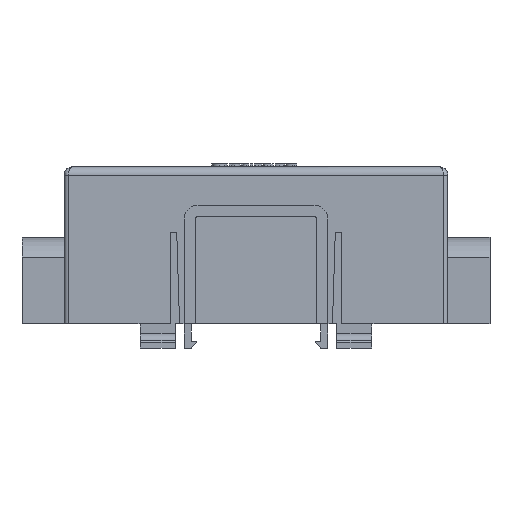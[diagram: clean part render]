
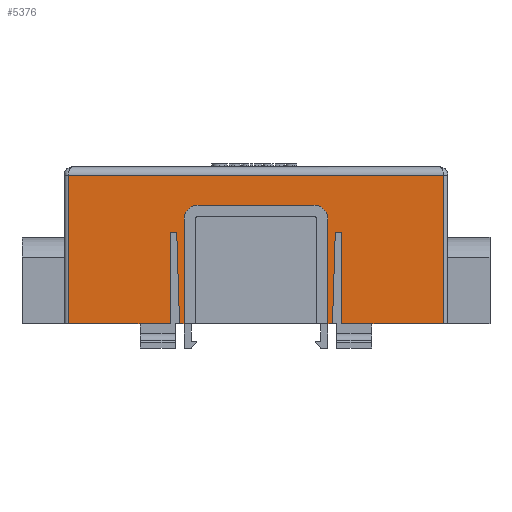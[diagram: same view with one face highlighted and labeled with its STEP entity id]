
A CAD part, front view. The second image highlights one B-rep face of the part: STEP entity #5376.
In plain terms, the highlighted planar face has unit normal (0, -1, 0).
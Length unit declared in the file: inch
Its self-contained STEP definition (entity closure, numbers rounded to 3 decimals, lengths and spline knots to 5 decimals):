
#507=FACE_OUTER_BOUND('',#805,.T.);
#805=EDGE_LOOP('',(#4608,#4609,#4610,#4611,#4612,#4613,#4614,#4615,#4616,
#4617,#4618,#4619,#4620,#4621,#4622,#4623,#4624,#4625));
#917=CIRCLE('',#5660,0.098);
#918=CIRCLE('',#5661,0.098);
#1364=LINE('',#9201,#1942);
#1370=LINE('',#9213,#1948);
#1371=LINE('',#9218,#1949);
#1375=LINE('',#9226,#1953);
#1378=LINE('',#9231,#1956);
#1393=LINE('',#9263,#1971);
#1395=LINE('',#9267,#1973);
#1396=LINE('',#9269,#1974);
#1397=LINE('',#9270,#1975);
#1398=LINE('',#9272,#1976);
#1399=LINE('',#9274,#1977);
#1400=LINE('',#9276,#1978);
#1401=LINE('',#9278,#1979);
#1402=LINE('',#9280,#1980);
#1403=LINE('',#9284,#1981);
#1404=LINE('',#9287,#1982);
#1942=VECTOR('',#6546,0.3937);
#1948=VECTOR('',#6554,0.3937);
#1949=VECTOR('',#6559,0.3937);
#1953=VECTOR('',#6565,0.3937);
#1956=VECTOR('',#6570,0.3937);
#1971=VECTOR('',#6593,0.3937);
#1973=VECTOR('',#6597,0.3937);
#1974=VECTOR('',#6598,0.3937);
#1975=VECTOR('',#6599,0.3937);
#1976=VECTOR('',#6600,0.3937);
#1977=VECTOR('',#6601,0.3937);
#1978=VECTOR('',#6602,0.3937);
#1979=VECTOR('',#6603,0.3937);
#1980=VECTOR('',#6604,0.3937);
#1981=VECTOR('',#6607,0.3937);
#1982=VECTOR('',#6610,0.3937);
#2501=VERTEX_POINT('',#9198);
#2502=VERTEX_POINT('',#9200);
#2506=VERTEX_POINT('',#9210);
#2507=VERTEX_POINT('',#9212);
#2508=VERTEX_POINT('',#9216);
#2509=VERTEX_POINT('',#9217);
#2512=VERTEX_POINT('',#9225);
#2526=VERTEX_POINT('',#9262);
#2527=VERTEX_POINT('',#9266);
#2528=VERTEX_POINT('',#9268);
#2529=VERTEX_POINT('',#9271);
#2530=VERTEX_POINT('',#9273);
#2531=VERTEX_POINT('',#9275);
#2532=VERTEX_POINT('',#9277);
#2533=VERTEX_POINT('',#9279);
#2534=VERTEX_POINT('',#9281);
#2535=VERTEX_POINT('',#9283);
#2536=VERTEX_POINT('',#9285);
#3213=EDGE_CURVE('',#2502,#2501,#1364,.T.);
#3219=EDGE_CURVE('',#2507,#2506,#1370,.T.);
#3221=EDGE_CURVE('',#2508,#2509,#1371,.T.);
#3225=EDGE_CURVE('',#2509,#2512,#1375,.T.);
#3228=EDGE_CURVE('',#2512,#2502,#1378,.T.);
#3245=EDGE_CURVE('',#2526,#2508,#1393,.T.);
#3247=EDGE_CURVE('',#2527,#2501,#1395,.T.);
#3248=EDGE_CURVE('',#2528,#2527,#1396,.T.);
#3249=EDGE_CURVE('',#2507,#2528,#1397,.T.);
#3250=EDGE_CURVE('',#2506,#2529,#1398,.T.);
#3251=EDGE_CURVE('',#2529,#2530,#1399,.T.);
#3252=EDGE_CURVE('',#2530,#2531,#1400,.T.);
#3253=EDGE_CURVE('',#2531,#2532,#1401,.T.);
#3254=EDGE_CURVE('',#2532,#2533,#1402,.T.);
#3255=EDGE_CURVE('',#2533,#2534,#917,.T.);
#3256=EDGE_CURVE('',#2534,#2535,#1403,.T.);
#3257=EDGE_CURVE('',#2535,#2536,#918,.T.);
#3258=EDGE_CURVE('',#2536,#2526,#1404,.T.);
#4608=ORIENTED_EDGE('',*,*,#3221,.T.);
#4609=ORIENTED_EDGE('',*,*,#3225,.T.);
#4610=ORIENTED_EDGE('',*,*,#3228,.T.);
#4611=ORIENTED_EDGE('',*,*,#3213,.T.);
#4612=ORIENTED_EDGE('',*,*,#3247,.F.);
#4613=ORIENTED_EDGE('',*,*,#3248,.F.);
#4614=ORIENTED_EDGE('',*,*,#3249,.F.);
#4615=ORIENTED_EDGE('',*,*,#3219,.T.);
#4616=ORIENTED_EDGE('',*,*,#3250,.T.);
#4617=ORIENTED_EDGE('',*,*,#3251,.T.);
#4618=ORIENTED_EDGE('',*,*,#3252,.T.);
#4619=ORIENTED_EDGE('',*,*,#3253,.T.);
#4620=ORIENTED_EDGE('',*,*,#3254,.T.);
#4621=ORIENTED_EDGE('',*,*,#3255,.T.);
#4622=ORIENTED_EDGE('',*,*,#3256,.T.);
#4623=ORIENTED_EDGE('',*,*,#3257,.T.);
#4624=ORIENTED_EDGE('',*,*,#3258,.T.);
#4625=ORIENTED_EDGE('',*,*,#3245,.T.);
#5114=PLANE('',#5659);
#5376=ADVANCED_FACE('',(#507),#5114,.T.);
#5659=AXIS2_PLACEMENT_3D('',#9265,#6595,#6596);
#5660=AXIS2_PLACEMENT_3D('',#9282,#6605,#6606);
#5661=AXIS2_PLACEMENT_3D('',#9286,#6608,#6609);
#6546=DIRECTION('',(1.,0.,0.));
#6554=DIRECTION('',(1.,0.,0.));
#6559=DIRECTION('',(0.03,0.,1.));
#6565=DIRECTION('',(1.,0.,0.));
#6570=DIRECTION('',(0.,0.,-1.));
#6593=DIRECTION('',(1.,0.,0.));
#6595=DIRECTION('center_axis',(0.,-1.,0.));
#6596=DIRECTION('ref_axis',(1.,0.,0.));
#6597=DIRECTION('',(0.,0.,-1.));
#6598=DIRECTION('',(1.,0.,0.));
#6599=DIRECTION('',(0.,0.,1.));
#6600=DIRECTION('',(0.,0.,1.));
#6601=DIRECTION('',(1.,0.,0.));
#6602=DIRECTION('',(0.03,0.,-1.));
#6603=DIRECTION('',(1.,0.,0.));
#6604=DIRECTION('',(0.,0.,1.));
#6605=DIRECTION('center_axis',(0.,1.,0.));
#6606=DIRECTION('ref_axis',(0.,0.,
1.));
#6607=DIRECTION('',(1.,0.,0.));
#6608=DIRECTION('center_axis',(0.,1.,0.));
#6609=DIRECTION('ref_axis',(1.,0.,0.));
#6610=DIRECTION('',(0.,0.,-1.));
#9198=CARTESIAN_POINT('',(1.315,-0.032,0.));
#9200=CARTESIAN_POINT('',(0.60071,-0.032,0.));
#9201=CARTESIAN_POINT('',(-1.345,-0.032,0.));
#9210=CARTESIAN_POINT('',(-0.60071,-0.032,0.));
#9212=CARTESIAN_POINT('',(-1.315,-0.032,0.));
#9213=CARTESIAN_POINT('',(-1.345,-0.032,0.));
#9216=CARTESIAN_POINT('',(0.536,-0.032,0.));
#9217=CARTESIAN_POINT('',(0.55556,-0.032,0.642));
#9218=CARTESIAN_POINT('',(0.54491,-0.032,0.29237));
#9225=CARTESIAN_POINT('',(0.60071,-0.032,0.642));
#9226=CARTESIAN_POINT('',(-0.37215,-0.032,0.642));
#9231=CARTESIAN_POINT('',(0.60071,-0.032,0.));
#9262=CARTESIAN_POINT('',(0.504,-0.032,0.));
#9263=CARTESIAN_POINT('',(-1.345,-0.032,0.));
#9265=CARTESIAN_POINT('Origin',(-1.345,-0.032,0.));
#9266=CARTESIAN_POINT('',(1.315,-0.032,1.04));
#9267=CARTESIAN_POINT('',(1.315,-0.032,0.));
#9268=CARTESIAN_POINT('',(-1.315,-0.032,1.04));
#9269=CARTESIAN_POINT('',(-0.6725,-0.032,1.04));
#9270=CARTESIAN_POINT('',(-1.315,-0.032,0.));
#9271=CARTESIAN_POINT('',(-0.60071,-0.032,0.642));
#9272=CARTESIAN_POINT('',(-0.60071,-0.032,0.));
#9273=CARTESIAN_POINT('',(-0.55556,-0.032,0.642));
#9274=CARTESIAN_POINT('',(-0.97285,-0.032,0.642));
#9275=CARTESIAN_POINT('',(-0.536,-0.032,0.));
#9276=CARTESIAN_POINT('',(-0.54616,-0.032,0.33331));
#9277=CARTESIAN_POINT('',(-0.504,-0.032,0.));
#9278=CARTESIAN_POINT('',(-1.345,-0.032,0.));
#9279=CARTESIAN_POINT('',(-0.504,-0.032,0.734));
#9280=CARTESIAN_POINT('',(-0.504,-0.032,0.367));
#9281=CARTESIAN_POINT('',(-0.406,-0.032,0.832));
#9282=CARTESIAN_POINT('Origin',(-0.406,-0.032,0.734));
#9283=CARTESIAN_POINT('',(0.406,-0.032,0.832));
#9284=CARTESIAN_POINT('',(-0.4695,-0.032,0.832));
#9285=CARTESIAN_POINT('',(0.504,-0.032,0.734));
#9286=CARTESIAN_POINT('Origin',(0.406,-0.032,0.734));
#9287=CARTESIAN_POINT('',(0.504,-0.032,0.));
